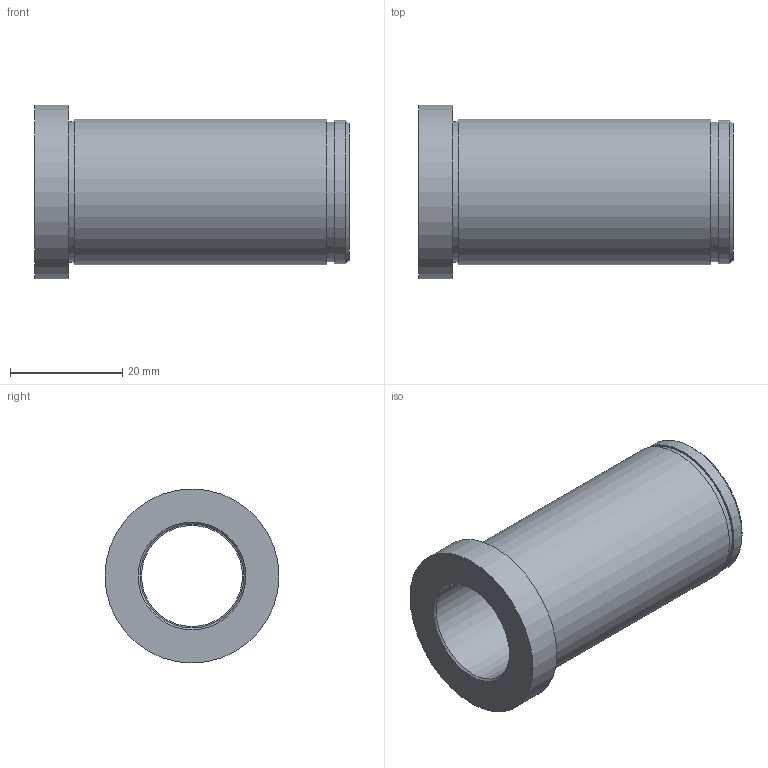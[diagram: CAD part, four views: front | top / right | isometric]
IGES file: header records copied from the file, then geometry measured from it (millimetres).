
Global section: file name: BG05.018056.ipt; native system: Autodesk Inventor 2021; preprocessor: unknown; author: SM; date: 20211221.172639; units: millimetre
Bounding box: 56 x 31 x 31 mm (x, y, z)
Volume: 16431.6 mm3; surface area: 8932.7 mm2
Topology: 1 solids, 1 shells, 17 faces, 31 edges, 21 vertices
Faces by surface type: plane 7, cylinder 5, revolution 4, cone 1
Full cylindrical faces by diameter (mm): 24.9 x1, 25 x1, 25.6 x1, 26 x1, 31 x1
